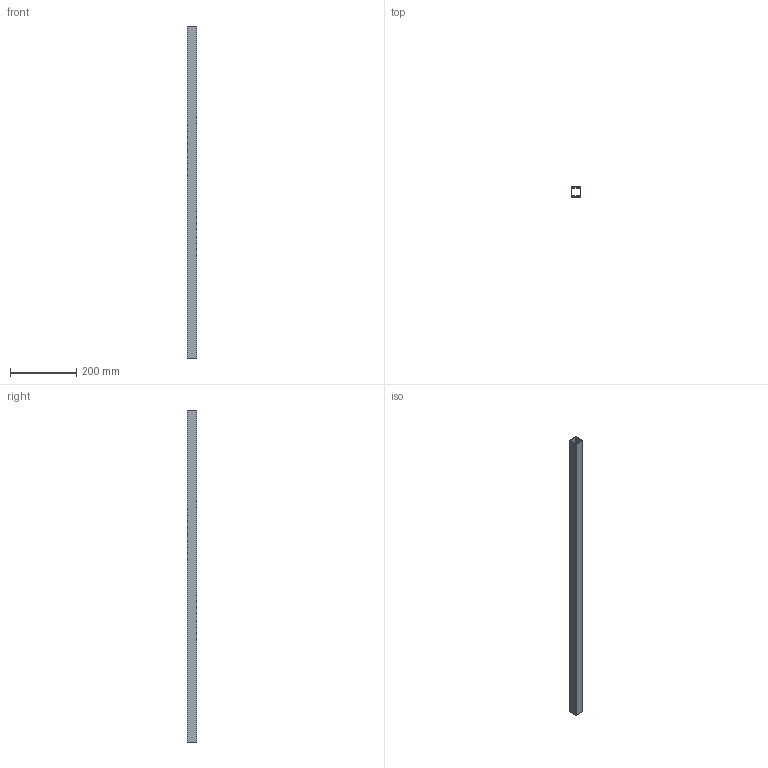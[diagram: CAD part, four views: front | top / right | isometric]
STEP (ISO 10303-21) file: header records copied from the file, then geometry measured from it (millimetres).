
FILE_DESCRIPTION (( 'STEP AP214' ), '1' );
FILE_NAME ('118.030.025.STEP', '2020-08-04T15:08:10', ( '' ), ( '' ), 'SwSTEP 2.0', 'SolidWorks 2018', '' );
FILE_SCHEMA (( 'AUTOMOTIVE_DESIGN' ));
Length unit declared in the file: millimetre
Products named in the file (1): 118.030.025
Bounding box: 30 x 30 x 1000 mm (x, y, z)
Volume: 274656.6 mm3; surface area: 218832.5 mm2
Topology: 1 solids, 1 shells, 18 faces, 48 edges, 32 vertices
Faces by surface type: plane 10, cylinder 8
Entity records: 606 total; most frequent: DIRECTION 102, CARTESIAN_POINT 99, ORIENTED_EDGE 96, EDGE_CURVE 48, AXIS2_PLACEMENT_3D 35, VECTOR 32, VERTEX_POINT 32, LINE 32
